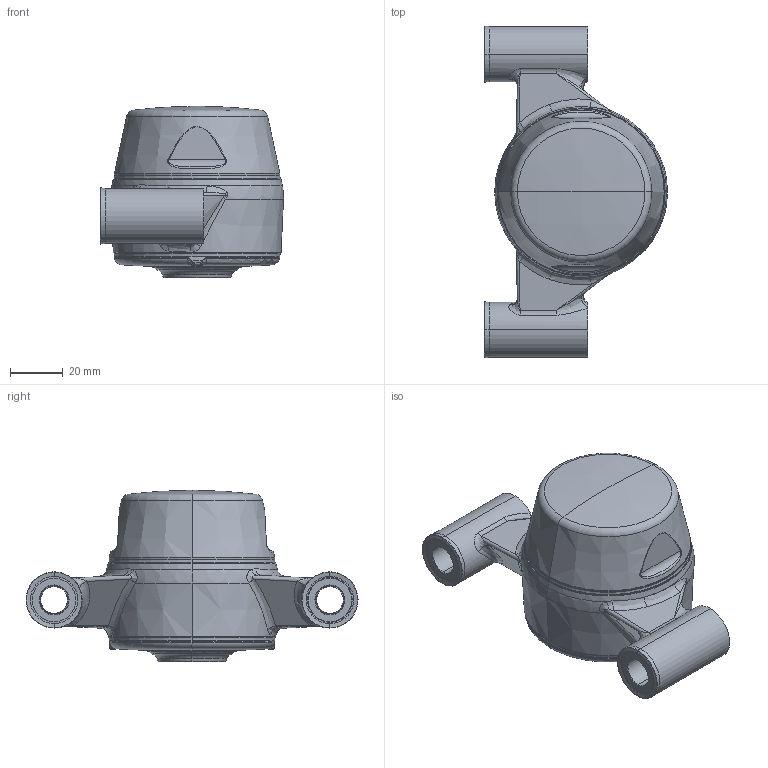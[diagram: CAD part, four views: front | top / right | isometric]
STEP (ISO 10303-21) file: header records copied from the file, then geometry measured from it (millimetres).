
FILE_DESCRIPTION (( 'STEP AP203' ), '1' );
FILE_NAME ('XBPBC52(White)-CSB2500(Front)-CL(White)-OS(White)_Shell.step', '2020-08-08T23:49:26', ( '' ), ( '' ), 'SwSTEP 2.0', 'SolidWorks 2019', '' );
FILE_SCHEMA (( 'CONFIG_CONTROL_DESIGN' ));
Length unit declared in the file: millimetre
Products named in the file (1): XBPBC52(White)-CSB2500(Front)-CL(White)-OS(White)_Shell
Bounding box: 69.69 x 126.4 x 65.25 mm (x, y, z)
Surface area: 38846.3 mm2 (no closed solid volume)
Topology: 0 solids, 26 shells, 278 faces, 810 edges, 544 vertices
Faces by surface type: bspline 78, cone 65, cylinder 58, torus 44, plane 27, sphere 6
Entity records: 15524 total; most frequent: CARTESIAN_POINT 8642, DIRECTION 1403, ORIENTED_EDGE 1358, EDGE_CURVE 810, AXIS2_PLACEMENT_3D 626, VERTEX_POINT 544, CIRCLE 425, EDGE_LOOP 301
